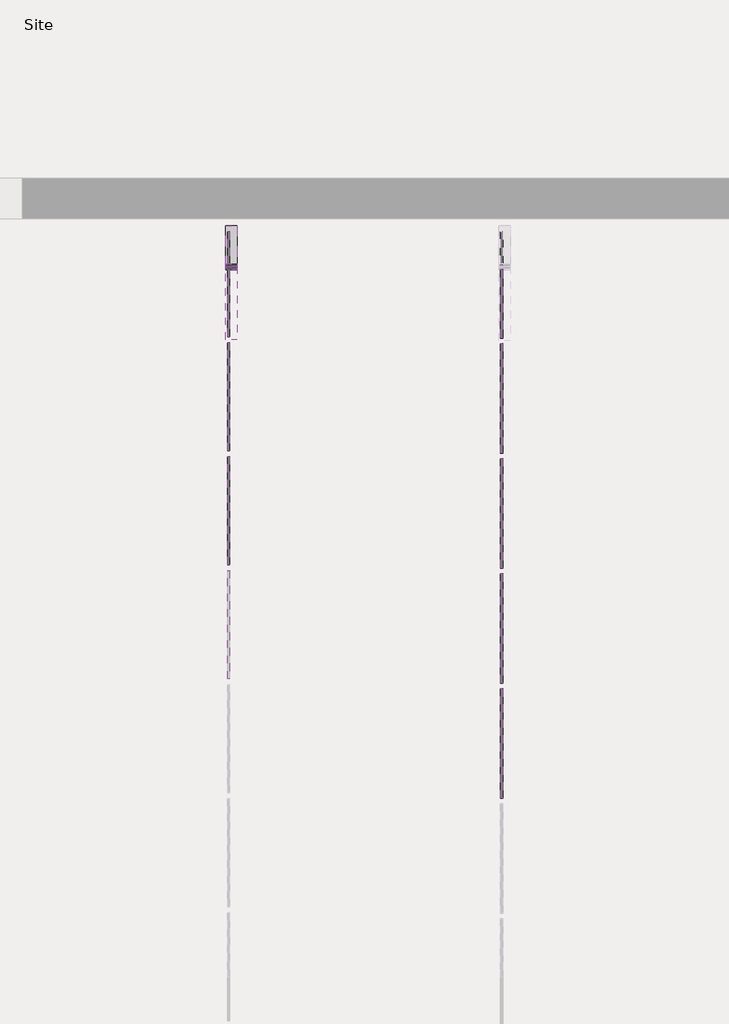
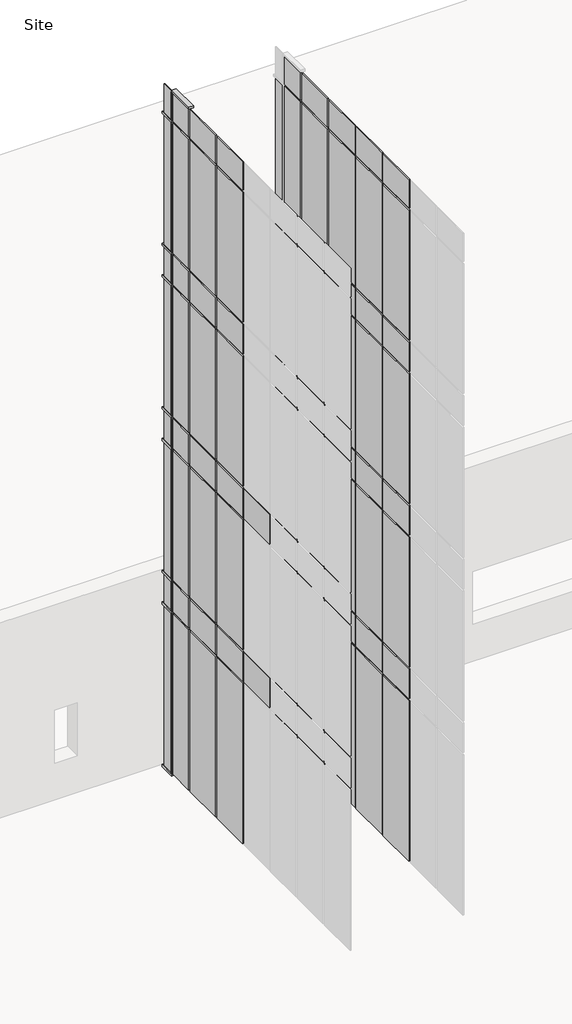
# One storey, part 3 of 4: 81 plates, 17 members.
"""IFC4 building model written with IfcOpenShell, lengths in millimetres."""

import ifcopenshell
import ifcopenshell.guid

model = None  # the IFC model being written
_history = None  # IfcOwnerHistory: only IFC2X3 demands one
_inside = {}  # id of a spatial element -> (the spatial element, [elements in it])
_under = {}  # id of a project, library or spatial element -> (it, [spatial elements below it])
_declared = {}  # id of a project -> (the project, [libraries it declares])
_typed = {}  # id of a type object -> (the type object, [elements of that type])
_made_of = {}  # id of a material, layer set ... -> (it, [elements and type objects made of it])


def new_model(schema):
    """Start an empty IFC model of exactly this schema.

    Asked for "IFC4X3", IfcOpenShell would pick the latest addendum, in which some entities
    have other attributes; the version numbers below select the first issue.
    IFC2X3 requires an IfcOwnerHistory on every rooted entity: one is made here for all.
    """
    global model, _history
    if schema == "IFC4X3":
        model = ifcopenshell.file(schema_version=(4, 3, 0, 0))
    else:
        model = ifcopenshell.file(schema=schema)
    _inside.clear()
    _under.clear()
    _declared.clear()
    _typed.clear()
    _made_of.clear()
    _history = None
    if model.schema == "IFC2X3":
        org = make("IfcOrganization", Name="unknown")
        user = make(
            "IfcPersonAndOrganization",
            ThePerson=make("IfcPerson", FamilyName="unknown"),
            TheOrganization=org,
        )
        app = make(
            "IfcApplication",
            ApplicationDeveloper=org,
            Version="unknown",
            ApplicationFullName="unknown",
            ApplicationIdentifier="unknown",
        )
        _history = make(
            "IfcOwnerHistory",
            OwningUser=user,
            OwningApplication=app,
            ChangeAction="ADDED",
            CreationDate=0,
        )
    return model


def make(cls, **values):
    """One entity of the class cls with the attributes given. An attribute that is None is left unset."""
    return model.create_entity(
        cls, **{name: value for name, value in values.items() if value is not None}
    )


def rooted(cls, **values):
    """An entity with a GlobalId (a new one), such as an element, a storey or a relation."""
    return make(cls, GlobalId=ifcopenshell.guid.new(), OwnerHistory=_history, **values)


def si_unit(unit_type, name, prefix=None):
    """IfcSIUnit, for example si_unit("LENGTHUNIT", "METRE", prefix="MILLI")."""
    return make("IfcSIUnit", UnitType=unit_type, Prefix=prefix, Name=name)


def assignment(units):
    """IfcUnitAssignment: the units of a project."""
    return None if units is None else make("IfcUnitAssignment", Units=units)


def point(xyz):
    """IfcCartesianPoint."""
    return None if xyz is None else make("IfcCartesianPoint", Coordinates=xyz)


def direction(xyz):
    """IfcDirection."""
    return None if xyz is None else make("IfcDirection", DirectionRatios=xyz)


def frame(location, z_axis=None, x_axis=None):
    """IfcAxis2Placement3D, a coordinate frame: its origin and axes. An axis left out is left unset."""
    return make(
        "IfcAxis2Placement3D",
        Location=point(location),
        Axis=direction(z_axis),
        RefDirection=direction(x_axis),
    )


def origin():
    """The frame at (0, 0, 0) with its axes left unset."""
    return frame((0.0, 0.0, 0.0))


def origin_with_axes():
    """The frame at (0, 0, 0) with the z axis (0, 0, 1) and the x axis (1, 0, 0) written out."""
    return frame((0.0, 0.0, 0.0), z_axis=(0.0, 0.0, 1.0), x_axis=(1.0, 0.0, 0.0))


def place(relative_to, where):
    """IfcLocalPlacement: puts the frame where relative to a parent placement (None: the world)."""
    return make(
        "IfcLocalPlacement", PlacementRelTo=relative_to, RelativePlacement=where
    )


def context(
    kind, dimensions, precision=None, world=None, true_north=None, identifier=None
):
    """IfcGeometricRepresentationContext, for example the 3D "Model" context."""
    return make(
        "IfcGeometricRepresentationContext",
        ContextIdentifier=identifier,
        ContextType=kind,
        CoordinateSpaceDimension=dimensions,
        Precision=precision,
        WorldCoordinateSystem=world,
        TrueNorth=true_north,
    )


def project(units=None, contexts=None):
    """IfcProject with its units and contexts."""
    return rooted(
        "IfcProject",
        Name="project",
        RepresentationContexts=contexts,
        UnitsInContext=assignment(units),
    )


def spatial(cls, under=None, at=None, **own):
    """A site, building, storey or space (cls), placed at a placement, below another one or the project."""
    s = rooted(cls, ObjectPlacement=at, **own)
    if under is not None:
        _under.setdefault(under.id(), (under, []))[1].append(s)
    return s


def polyline(points):
    """IfcPolyline through the points."""
    return make("IfcPolyline", Points=[point(p) for p in points])


def outline(outer, holes=None, kind="AREA"):
    """IfcArbitraryClosedProfileDef: a profile drawn as a closed curve; with holes, ...WithVoids."""
    if holes is None:
        return make("IfcArbitraryClosedProfileDef", ProfileType=kind, OuterCurve=outer)
    return make(
        "IfcArbitraryProfileDefWithVoids",
        ProfileType=kind,
        OuterCurve=outer,
        InnerCurves=holes,
    )


def extrude(swept, where, along, depth):
    """IfcExtrudedAreaSolid: the profile swept, set in the frame where, extruded along a direction by depth."""
    return make(
        "IfcExtrudedAreaSolid",
        SweptArea=swept,
        Position=where,
        ExtrudedDirection=direction(along),
        Depth=depth,
    )


def shape(context_of_items, identifier, shape_type, items):
    """IfcShapeRepresentation: the items that make up one representation, for example the "Body"."""
    return make(
        "IfcShapeRepresentation",
        ContextOfItems=context_of_items,
        RepresentationIdentifier=identifier,
        RepresentationType=shape_type,
        Items=items,
    )


def source(mapping_origin, context_of_items, identifier, shape_type, items):
    """IfcRepresentationMap: a shape defined once, which mapped items show again and again."""
    return make(
        "IfcRepresentationMap",
        MappingOrigin=mapping_origin,
        MappedRepresentation=shape(context_of_items, identifier, shape_type, items),
    )


def transform(
    local_origin,
    x_axis=None,
    y_axis=None,
    z_axis=None,
    scale=None,
    scale2=None,
    scale3=None,
    uniform=True,
):
    """IfcCartesianTransformationOperator3D, or its non-uniform kind. x_axis, y_axis, z_axis: its Axis1, 2, 3."""
    if uniform:
        return make(
            "IfcCartesianTransformationOperator3D",
            Axis1=direction(x_axis),
            Axis2=direction(y_axis),
            LocalOrigin=point(local_origin),
            Scale=scale,
            Axis3=direction(z_axis),
        )
    return make(
        "IfcCartesianTransformationOperator3DnonUniform",
        Axis1=direction(x_axis),
        Axis2=direction(y_axis),
        LocalOrigin=point(local_origin),
        Scale=scale,
        Axis3=direction(z_axis),
        Scale2=scale2,
        Scale3=scale3,
    )


def mapped(mapping_source, mapping_target):
    """IfcMappedItem: shows the shape of a source again, moved by a transform."""
    return make(
        "IfcMappedItem", MappingSource=mapping_source, MappingTarget=mapping_target
    )


def made_of(thing, what):
    """Note that an element or type object is made of a material, layer set ...; save() writes the relation."""
    if what is not None:
        _made_of.setdefault(what.id(), (what, []))[1].append(thing)
    return thing


def element(
    cls,
    number,
    at=None,
    inside=None,
    cuts=None,
    type_object=None,
    material=None,
    context=None,
    identifier="Body",
    shape_type=None,
    held_by="IfcProductDefinitionShape",
    body=None,
    shapes=None,
    **own,
):
    """One element of the class cls, such as IfcWall. Its Tag is "e" and its number.

    at: its placement. inside: the storey or other place that contains it. cuts: it is an
    opening in that element (IfcRelVoidsElement). A single representation is given by context,
    identifier, shape_type and body (its items); several are given by shapes. held_by: the class
    of the entity that holds the representations. save() writes the other relations.
    """
    e = rooted(cls, Tag="e%d" % number, ObjectPlacement=at, **own)
    if body is not None:
        shapes = [shape(context, identifier, shape_type, body)]
    if shapes is not None:
        e.Representation = make(held_by, Representations=shapes)
    if inside is not None:
        _inside.setdefault(inside.id(), (inside, []))[1].append(e)
    if cuts is not None:
        rooted(
            "IfcRelVoidsElement", RelatingBuildingElement=cuts, RelatedOpeningElement=e
        )
    if type_object is not None:
        _typed.setdefault(type_object.id(), (type_object, []))[1].append(e)
    return made_of(e, material)


def aggregate(whole, parts):
    """IfcRelAggregates: a whole, such as a stair, and the parts it consists of."""
    return rooted("IfcRelAggregates", RelatingObject=whole, RelatedObjects=parts)


def save(model, path):
    """Write the relations noted so far, then the file.

    IfcRelAggregates (storeys below a building ...), IfcRelContainedInSpatialStructure (elements
    in a storey), IfcRelDefinesByType, IfcRelAssociatesMaterial and IfcRelDeclares: one each for
    every whole, place, type object, material and project.
    """
    for whole, parts in _under.values():
        aggregate(whole, parts)
    for where, things in _inside.values():
        rooted(
            "IfcRelContainedInSpatialStructure",
            RelatedElements=things,
            RelatingStructure=where,
        )
    for kind, things in _typed.values():
        rooted("IfcRelDefinesByType", RelatedObjects=things, RelatingType=kind)
    for what, things in _made_of.values():
        rooted("IfcRelAssociatesMaterial", RelatedObjects=things, RelatingMaterial=what)
    for by, libraries in _declared.values():
        rooted("IfcRelDeclares", RelatingContext=by, RelatedDefinitions=libraries)
    model.write(path)


def member_5d07894b(model_context):
    return source(origin(), model_context, "Body", "SweptSolid", [
        extrude(outline(polyline([(31.75, 63.5), (31.75, -63.5), (-31.75, -63.5), (-31.75, 63.5), (31.75, 63.5)])), frame((0.0, 0.0, -4629.15), z_axis=(0.0, 0.0, 1.0), x_axis=(1.0, 0.0, 0.0)), (0.0, 0.0, 1.0), 4629.15),
    ])


def member_3ba9e939(model_context):
    return source(origin(), model_context, "Body", "SweptSolid", [
        extrude(outline(polyline([(31.75, 63.5), (31.75, -63.5), (-31.75, -63.5), (-31.75, 63.5), (31.75, 63.5)])), frame((0.0, 0.0, -3746.5), z_axis=(0.0, 0.0, 1.0), x_axis=(1.0, 0.0, 0.0)), (0.0, 0.0, 1.0), 3746.5),
    ])


def member_ad567e07(model_context):
    return source(origin(), model_context, "Body", "SweptSolid", [
        extrude(outline(polyline([(31.75, 63.5), (31.75, -63.5), (-31.75, -63.5), (-31.75, 63.5), (31.75, 63.5)])), frame((0.0, 0.0, -819.15), z_axis=(0.0, 0.0, 1.0), x_axis=(1.0, 0.0, 0.0)), (0.0, 0.0, 1.0), 819.15),
    ])


def member_7db1855a(model_context):
    return source(origin(), model_context, "Body", "SweptSolid", [
        extrude(outline(polyline([(31.75, 63.5), (31.75, -63.5), (-31.75, -63.5), (-31.75, 63.5), (31.75, 63.5)])), frame((0.0, 0.0, -850.9), z_axis=(0.0, 0.0, 1.0), x_axis=(1.0, 0.0, 0.0)), (0.0, 0.0, 1.0), 850.9),
    ])


def member_7227ddca(model_context):
    return source(origin(), model_context, "Body", "SweptSolid", [
        extrude(outline(polyline([(0.0, 63.5), (0.0, -63.5), (-63.5, -63.5), (-63.5, 63.5), (0.0, 63.5)])), frame((0.0, 0.0, -813.7989637), z_axis=(0.0, 0.0, 1.0), x_axis=(1.0, 0.0, 0.0)), (0.0, 0.0, 1.0), 813.7989637),
    ])


def member_ffd4c858(model_context):
    return source(origin(), model_context, "Body", "SweptSolid", [
        extrude(outline(polyline([(31.75, 63.5), (31.75, -63.5), (-31.75, -63.5), (-31.75, 63.5), (31.75, 63.5)])), frame((0.0, 0.0, -457.2), z_axis=(0.0, 0.0, 1.0), x_axis=(1.0, 0.0, 0.0)), (0.0, 0.0, 1.0), 457.2),
    ])


def member_15823cb3(model_context):
    return source(origin(), model_context, "Body", "SweptSolid", [
        extrude(outline(polyline([(0.0, 63.5), (0.0, -63.5), (-63.5, -63.5), (-63.5, 63.5), (0.0, 63.5)])), frame((0.0, 0.0, -457.2), z_axis=(0.0, 0.0, 1.0), x_axis=(1.0, 0.0, 0.0)), (0.0, 0.0, 1.0), 457.2),
    ])


def system_panel_glazed_26f8e022(model_context):
    return source(origin(), model_context, "Body", "SweptSolid", [
        extrude(outline(polyline([(603.7494819, 19.05), (-603.7494819, 19.05), (-603.7494819, 44.45), (603.7494819, 44.45), (603.7494819, 19.05)])), origin_with_axes(), (0.0, 0.0, 1.0), 4629.15),
    ])


def system_panel_glazed_31d10065(model_context):
    return source(origin(), model_context, "Body", "SweptSolid", [
        extrude(outline(polyline([(609.6, 19.05), (-609.6, 19.05), (-609.6, 44.45), (609.6, 44.45), (609.6, 19.05)])), origin_with_axes(), (0.0, 0.0, 1.0), 4629.15),
    ])


def system_panel_glazed_ccbaed92(model_context):
    return source(origin(), model_context, "Body", "SweptSolid", [
        extrude(outline(polyline([(375.1494819, 19.05), (-375.1494819, 19.05), (-375.1494819, 44.45), (375.1494819, 44.45), (375.1494819, 19.05)])), origin_with_axes(), (0.0, 0.0, 1.0), 4629.15),
    ])


def system_panel_glazed_7dca4fa5(model_context):
    return source(origin(), model_context, "Body", "SweptSolid", [
        extrude(outline(polyline([(381.0, 19.05), (-381.0, 19.05), (-381.0, 44.45), (381.0, 44.45), (381.0, 19.05)])), origin_with_axes(), (0.0, 0.0, 1.0), 4629.15),
    ])


def system_panel_glazed_2b3d2baa(model_context):
    return source(origin(), model_context, "Body", "SweptSolid", [
        extrude(outline(polyline([(609.6, 19.05), (-609.6, 19.05), (-609.6, 44.45), (609.6, 44.45), (609.6, 19.05)])), origin_with_axes(), (0.0, 0.0, 1.0), 3746.5),
    ])


def system_panel_glazed_7e289b92(model_context):
    return source(origin(), model_context, "Body", "SweptSolid", [
        extrude(outline(polyline([(381.0, 19.05), (-381.0, 19.05), (-381.0, 44.45), (381.0, 44.45), (381.0, 19.05)])), origin_with_axes(), (0.0, 0.0, 1.0), 3746.5),
    ])


def system_panel_glazed_8fe7ab7d(model_context):
    return source(origin(), model_context, "Body", "SweptSolid", [
        extrude(outline(polyline([(609.6, 19.05), (-609.6, 19.05), (-609.6, 44.45), (609.6, 44.45), (609.6, 19.05)])), origin_with_axes(), (0.0, 0.0, 1.0), 850.9),
    ])


def system_panel_glazed_4fa5cbd7(model_context):
    return source(origin(), model_context, "Body", "SweptSolid", [
        extrude(outline(polyline([(381.0, 19.05), (-381.0, 19.05), (-381.0, 44.45), (381.0, 44.45), (381.0, 19.05)])), origin_with_axes(), (0.0, 0.0, 1.0), 850.9),
    ])


def system_panel_glazed_636dec6d(model_context):
    return source(origin(), model_context, "Body", "SweptSolid", [
        extrude(outline(polyline([(609.6, 19.05), (-609.6, 19.05), (-609.6, 44.45), (609.6, 44.45), (609.6, 19.05)])), origin_with_axes(), (0.0, 0.0, 1.0), 819.15),
    ])


def system_panel_glazed_99ba6c15(model_context):
    return source(origin(), model_context, "Body", "SweptSolid", [
        extrude(outline(polyline([(381.0, 19.05), (-381.0, 19.05), (-381.0, 44.45), (381.0, 44.45), (381.0, 19.05)])), origin_with_axes(), (0.0, 0.0, 1.0), 819.15),
    ])


def system_panel_glazed_35bb093a(model_context):
    return source(origin(), model_context, "Body", "SweptSolid", [
        extrude(outline(polyline([(603.7494819, 19.05), (-603.7494819, 19.05), (-603.7494819, 44.45), (603.7494819, 44.45), (603.7494819, 19.05)])), origin_with_axes(), (0.0, 0.0, 1.0), 3746.5),
    ])


def system_panel_glazed_f4d1d7f7(model_context):
    return source(origin(), model_context, "Body", "SweptSolid", [
        extrude(outline(polyline([(375.1494819, 19.05), (-375.1494819, 19.05), (-375.1494819, 44.45), (375.1494819, 44.45), (375.1494819, 19.05)])), origin_with_axes(), (0.0, 0.0, 1.0), 3746.5),
    ])


def system_panel_glazed_6e853645(model_context):
    return source(origin(), model_context, "Body", "SweptSolid", [
        extrude(outline(polyline([(180.975, 19.05), (-180.975, 19.05), (-180.975, 44.45), (180.975, 44.45), (180.975, 19.05)])), origin_with_axes(), (0.0, 0.0, 1.0), 4629.15),
    ])


def system_panel_glazed_5cc7900c(model_context):
    return source(origin(), model_context, "Body", "SweptSolid", [
        extrude(outline(polyline([(180.975, 19.05), (-180.975, 19.05), (-180.975, 44.45), (180.975, 44.45), (180.975, 19.05)])), origin_with_axes(), (0.0, 0.0, 1.0), 850.9),
    ])


def system_panel_glazed_032e4dab(model_context):
    return source(origin(), model_context, "Body", "SweptSolid", [
        extrude(outline(polyline([(180.975, 19.05), (-180.975, 19.05), (-180.975, 44.45), (180.975, 44.45), (180.975, 19.05)])), origin_with_axes(), (0.0, 0.0, 1.0), 3746.5),
    ])


def system_panel_metal_panel_947f48db(model_context):
    return source(origin(), model_context, "Body", "SweptSolid", [
        extrude(outline(polyline([(603.7494819, 19.05), (-603.7494819, 19.05), (-603.7494819, 44.45), (603.7494819, 44.45), (603.7494819, 19.05)])), origin_with_axes(), (0.0, 0.0, 1.0), 819.15),
    ])


def system_panel_metal_panel_e2dbf0ce(model_context):
    return source(origin(), model_context, "Body", "SweptSolid", [
        extrude(outline(polyline([(375.1494819, 19.05), (-375.1494819, 19.05), (-375.1494819, 44.45), (375.1494819, 44.45), (375.1494819, 19.05)])), origin_with_axes(), (0.0, 0.0, 1.0), 819.15),
    ])


def system_panel_metal_panel_dcd9a435(model_context):
    return source(origin(), model_context, "Body", "SweptSolid", [
        extrude(outline(polyline([(603.7494819, 19.05), (-603.7494819, 19.05), (-603.7494819, 44.45), (603.7494819, 44.45), (603.7494819, 19.05)])), origin_with_axes(), (0.0, 0.0, 1.0), 850.9),
    ])


def system_panel_metal_panel_ab4ce9b6(model_context):
    return source(origin(), model_context, "Body", "SweptSolid", [
        extrude(outline(polyline([(375.1494819, 19.05), (-375.1494819, 19.05), (-375.1494819, 44.45), (375.1494819, 44.45), (375.1494819, 19.05)])), origin_with_axes(), (0.0, 0.0, 1.0), 850.9),
    ])


def system_panel_glazed_cc98a0ec(model_context):
    return source(origin(), model_context, "Body", "SweptSolid", [
        extrude(outline(polyline([(180.975, 19.05), (-180.975, 19.05), (-180.975, 44.45), (180.975, 44.45), (180.975, 19.05)])), origin_with_axes(), (0.0, 0.0, 1.0), 819.15),
    ])


model = new_model("IFC4")

# Units and contexts
model_context = context("Model", 3, world=origin())
ifc_project = project(units=[si_unit("LENGTHUNIT", "METRE", prefix="MILLI")], contexts=[model_context])

# Site, building, storey
site = spatial("IfcSite", under=ifc_project)
building = spatial("IfcBuilding", under=site)
storey = spatial("IfcBuildingStorey", under=building, Name="Site", Elevation=-152.4)

# Members
placement = place(None, origin())
member_shape = member_5d07894b(model_context)
element("IfcMember", 1, ObjectType="Rectangular Mullion1 : 2.5\" x 5\" rectangular", at=placement, inside=storey, context=model_context, shape_type="MappedRepresentation", body=[
    mapped(member_shape, transform((7830.8276119, 37629.311889, -88.9), x_axis=(0.0, 1.0, 0.0), y_axis=(1.0, 0.0, 0.0), z_axis=(0.0, 0.0, -1.0))),
])
member_2_shape = member_3ba9e939(model_context)
element("IfcMember", 2, ObjectType="Rectangular Mullion1 : 2.5\" x 5\" rectangular", at=placement, inside=storey, context=model_context, shape_type="MappedRepresentation", body=[
    mapped(member_2_shape, transform((7830.8276119, 37629.311889, 14966.95), x_axis=(0.0, 1.0, 0.0), y_axis=(1.0, 0.0, 0.0), z_axis=(0.0, 0.0, -1.0))),
])
element("IfcMember", 3, ObjectType="Rectangular Mullion1 : 2.5\" x 5\" rectangular", at=placement, inside=storey, context=model_context, shape_type="MappedRepresentation", body=[
    mapped(member_2_shape, transform((7830.8276119, 37629.311889, 10242.55), x_axis=(0.0, 1.0, 0.0), y_axis=(1.0, 0.0, 0.0), z_axis=(0.0, 0.0, -1.0))),
])
element("IfcMember", 4, ObjectType="Rectangular Mullion1 : 2.5\" x 5\" rectangular", at=placement, inside=storey, context=model_context, shape_type="MappedRepresentation", body=[
    mapped(member_2_shape, transform((7830.8276119, 37629.311889, 5518.15), x_axis=(0.0, 1.0, 0.0), y_axis=(1.0, 0.0, 0.0), z_axis=(0.0, 0.0, -1.0))),
])
member_3_shape = member_ad567e07(model_context)
element("IfcMember", 5, ObjectType="Rectangular Mullion1 : 2.5\" x 5\" rectangular", at=placement, inside=storey, context=model_context, shape_type="MappedRepresentation", body=[
    mapped(member_3_shape, transform((7830.8276119, 37629.311889, 18776.95), x_axis=(0.0, 1.0, 0.0), y_axis=(1.0, 0.0, 0.0), z_axis=(0.0, 0.0, -1.0))),
])
member_4_shape = member_7db1855a(model_context)
element("IfcMember", 6, ObjectType="Rectangular Mullion1 : 2.5\" x 5\" rectangular", at=placement, inside=storey, context=model_context, shape_type="MappedRepresentation", body=[
    mapped(member_4_shape, transform((7830.8276119, 37629.311889, 4603.75), x_axis=(0.0, 1.0, 0.0), y_axis=(1.0, 0.0, 0.0), z_axis=(0.0, 0.0, -1.0))),
])
element("IfcMember", 7, ObjectType="Rectangular Mullion1 : 2.5\" x 5\" rectangular", at=placement, inside=storey, context=model_context, shape_type="MappedRepresentation", body=[
    mapped(member_4_shape, transform((7830.8276119, 37629.311889, 9328.15), x_axis=(0.0, 1.0, 0.0), y_axis=(1.0, 0.0, 0.0), z_axis=(0.0, 0.0, -1.0))),
])
element("IfcMember", 8, ObjectType="Rectangular Mullion1 : 2.5\" x 5\" rectangular", at=placement, inside=storey, context=model_context, shape_type="MappedRepresentation", body=[
    mapped(member_4_shape, transform((7830.8276119, 37629.311889, 14052.55), x_axis=(0.0, 1.0, 0.0), y_axis=(1.0, 0.0, 0.0), z_axis=(0.0, 0.0, -1.0))),
])
member_5_shape = member_7227ddca(model_context)
element("IfcMember", 9, ObjectType="Rectangular Mullion1 : 2.5\" x 5\" rectangular", at=placement, inside=storey, context=model_context, shape_type="MappedRepresentation", body=[
    mapped(member_5_shape, transform((7830.8276119, 37629.311889, 19659.6), x_axis=(0.0, 0.0, 1.0), y_axis=(1.0, 0.0, 0.0), z_axis=(0.0, 1.0, 0.0))),
])
member_6_shape = member_ffd4c858(model_context)
element("IfcMember", 10, ObjectType="Rectangular Mullion1 : 2.5\" x 5\" rectangular", at=placement, inside=storey, context=model_context, shape_type="MappedRepresentation", body=[
    mapped(member_6_shape, transform((7830.8276119, 38086.511889, 5486.4), x_axis=(0.0, 0.0, 1.0), y_axis=(1.0, 0.0, 0.0), z_axis=(0.0, 1.0, 0.0))),
])
element("IfcMember", 11, ObjectType="Rectangular Mullion1 : 2.5\" x 5\" rectangular", at=placement, inside=storey, context=model_context, shape_type="MappedRepresentation", body=[
    mapped(member_6_shape, transform((7830.8276119, 38086.511889, 10210.8), x_axis=(0.0, 0.0, 1.0), y_axis=(1.0, 0.0, 0.0), z_axis=(0.0, 1.0, 0.0))),
])
element("IfcMember", 12, ObjectType="Rectangular Mullion1 : 2.5\" x 5\" rectangular", at=placement, inside=storey, context=model_context, shape_type="MappedRepresentation", body=[
    mapped(member_6_shape, transform((7830.8276119, 38086.511889, 14935.2), x_axis=(0.0, 0.0, 1.0), y_axis=(1.0, 0.0, 0.0), z_axis=(0.0, 1.0, 0.0))),
])
element("IfcMember", 13, ObjectType="Rectangular Mullion1 : 2.5\" x 5\" rectangular", at=placement, inside=storey, context=model_context, shape_type="MappedRepresentation", body=[
    mapped(member_6_shape, transform((7830.8276119, 38086.511889, 18745.2), x_axis=(0.0, 0.0, 1.0), y_axis=(1.0, 0.0, 0.0), z_axis=(0.0, 1.0, 0.0))),
])
element("IfcMember", 14, ObjectType="Rectangular Mullion1 : 2.5\" x 5\" rectangular", at=placement, inside=storey, context=model_context, shape_type="MappedRepresentation", body=[
    mapped(member_6_shape, transform((7830.8276119, 38086.511889, 14020.8), x_axis=(0.0, 0.0, 1.0), y_axis=(1.0, 0.0, 0.0), z_axis=(0.0, 1.0, 0.0))),
])
element("IfcMember", 15, ObjectType="Rectangular Mullion1 : 2.5\" x 5\" rectangular", at=placement, inside=storey, context=model_context, shape_type="MappedRepresentation", body=[
    mapped(member_6_shape, transform((7830.8276119, 38086.511889, 9296.4), x_axis=(0.0, 0.0, 1.0), y_axis=(1.0, 0.0, 0.0), z_axis=(0.0, 1.0, 0.0))),
])
element("IfcMember", 16, ObjectType="Rectangular Mullion1 : 2.5\" x 5\" rectangular", at=placement, inside=storey, context=model_context, shape_type="MappedRepresentation", body=[
    mapped(member_6_shape, transform((7830.8276119, 38086.511889, 4572.0), x_axis=(0.0, 0.0, 1.0), y_axis=(1.0, 0.0, 0.0), z_axis=(0.0, 1.0, 0.0))),
])
member_7_shape = member_15823cb3(model_context)
element("IfcMember", 17, ObjectType="Rectangular Mullion1 : 2.5\" x 5\" rectangular", at=placement, inside=storey, context=model_context, shape_type="MappedRepresentation", body=[
    mapped(member_7_shape, transform((7830.8276119, 37629.311889, -152.4), x_axis=(0.0, 0.0, -1.0), y_axis=(1.0, 0.0, 0.0), z_axis=(0.0, -1.0, 0.0))),
])

# Plates
system_panel_glazed_shape = system_panel_glazed_26f8e022(model_context)
element("IfcPlate", 18, ObjectType="System Panel : Glazed", at=placement, inside=storey, context=model_context, shape_type="MappedRepresentation", body=[
    mapped(system_panel_glazed_shape, transform((7830.8276119, 36180.0134434, -88.9), x_axis=(0.0, 1.0, 0.0), y_axis=(-1.0, 0.0, 0.0), z_axis=(0.0, 0.0, 1.0))),
])
element("IfcPlate", 19, ObjectType="System Panel : Glazed", at=placement, inside=storey, context=model_context, shape_type="MappedRepresentation", body=[
    mapped(system_panel_glazed_shape, transform((7830.8276119, 34909.0144797, -88.9), x_axis=(0.0, 1.0, 0.0), y_axis=(-1.0, 0.0, 0.0), z_axis=(0.0, 0.0, 1.0))),
])
system_panel_glazed_2_shape = system_panel_glazed_31d10065(model_context)
element("IfcPlate", 20, ObjectType="System Panel : Glazed", at=placement, inside=storey, context=model_context, shape_type="MappedRepresentation", body=[
    mapped(system_panel_glazed_2_shape, transform((10878.8276119, 33597.061889, -88.9), x_axis=(0.0, 1.0, 0.0), y_axis=(-1.0, 0.0, 0.0), z_axis=(0.0, 0.0, 1.0))),
])
element("IfcPlate", 21, ObjectType="System Panel : Glazed", at=placement, inside=storey, context=model_context, shape_type="MappedRepresentation", body=[
    mapped(system_panel_glazed_2_shape, transform((10878.8276119, 36162.461889, -88.9), x_axis=(0.0, 1.0, 0.0), y_axis=(-1.0, 0.0, 0.0), z_axis=(0.0, 0.0, 1.0))),
])
element("IfcPlate", 22, ObjectType="System Panel : Glazed", at=placement, inside=storey, context=model_context, shape_type="MappedRepresentation", body=[
    mapped(system_panel_glazed_2_shape, transform((10878.8276119, 32314.361889, -88.9), x_axis=(0.0, 1.0, 0.0), y_axis=(-1.0, 0.0, 0.0), z_axis=(0.0, 0.0, 1.0))),
])
element("IfcPlate", 23, ObjectType="System Panel : Glazed", at=placement, inside=storey, context=model_context, shape_type="MappedRepresentation", body=[
    mapped(system_panel_glazed_2_shape, transform((10878.8276119, 34879.761889, -88.9), x_axis=(0.0, 1.0, 0.0), y_axis=(-1.0, 0.0, 0.0), z_axis=(0.0, 0.0, 1.0))),
])
system_panel_glazed_3_shape = system_panel_glazed_ccbaed92(model_context)
element("IfcPlate", 24, ObjectType="System Panel : Glazed", at=placement, inside=storey, context=model_context, shape_type="MappedRepresentation", body=[
    mapped(system_panel_glazed_3_shape, transform((7830.8276119, 37222.4124071, -88.9), x_axis=(0.0, 1.0, 0.0), y_axis=(-1.0, 0.0, 0.0), z_axis=(0.0, 0.0, 1.0))),
])
system_panel_glazed_4_shape = system_panel_glazed_7dca4fa5(model_context)
element("IfcPlate", 25, ObjectType="System Panel : Glazed", at=placement, inside=storey, context=model_context, shape_type="MappedRepresentation", body=[
    mapped(system_panel_glazed_4_shape, transform((10878.8276119, 37216.561889, -88.9), x_axis=(0.0, 1.0, 0.0), y_axis=(-1.0, 0.0, 0.0), z_axis=(0.0, 0.0, 1.0))),
])
system_panel_glazed_5_shape = system_panel_glazed_2b3d2baa(model_context)
element("IfcPlate", 26, ObjectType="System Panel : Glazed", at=placement, inside=storey, context=model_context, shape_type="MappedRepresentation", body=[
    mapped(system_panel_glazed_5_shape, transform((10878.8276119, 32314.361889, 14966.95), x_axis=(0.0, 1.0, 0.0), y_axis=(-1.0, 0.0, 0.0), z_axis=(0.0, 0.0, 1.0))),
])
element("IfcPlate", 27, ObjectType="System Panel : Glazed", at=placement, inside=storey, context=model_context, shape_type="MappedRepresentation", body=[
    mapped(system_panel_glazed_5_shape, transform((10878.8276119, 33597.061889, 14966.95), x_axis=(0.0, 1.0, 0.0), y_axis=(-1.0, 0.0, 0.0), z_axis=(0.0, 0.0, 1.0))),
])
element("IfcPlate", 28, ObjectType="System Panel : Glazed", at=placement, inside=storey, context=model_context, shape_type="MappedRepresentation", body=[
    mapped(system_panel_glazed_5_shape, transform((10878.8276119, 34879.761889, 14966.95), x_axis=(0.0, 1.0, 0.0), y_axis=(-1.0, 0.0, 0.0), z_axis=(0.0, 0.0, 1.0))),
])
element("IfcPlate", 29, ObjectType="System Panel : Glazed", at=placement, inside=storey, context=model_context, shape_type="MappedRepresentation", body=[
    mapped(system_panel_glazed_5_shape, transform((10878.8276119, 36162.461889, 14966.95), x_axis=(0.0, 1.0, 0.0), y_axis=(-1.0, 0.0, 0.0), z_axis=(0.0, 0.0, 1.0))),
])
element("IfcPlate", 30, ObjectType="System Panel : Glazed", at=placement, inside=storey, context=model_context, shape_type="MappedRepresentation", body=[
    mapped(system_panel_glazed_5_shape, transform((10878.8276119, 32314.361889, 10242.55), x_axis=(0.0, 1.0, 0.0), y_axis=(-1.0, 0.0, 0.0), z_axis=(0.0, 0.0, 1.0))),
])
element("IfcPlate", 31, ObjectType="System Panel : Glazed", at=placement, inside=storey, context=model_context, shape_type="MappedRepresentation", body=[
    mapped(system_panel_glazed_5_shape, transform((10878.8276119, 33597.061889, 10242.55), x_axis=(0.0, 1.0, 0.0), y_axis=(-1.0, 0.0, 0.0), z_axis=(0.0, 0.0, 1.0))),
])
element("IfcPlate", 32, ObjectType="System Panel : Glazed", at=placement, inside=storey, context=model_context, shape_type="MappedRepresentation", body=[
    mapped(system_panel_glazed_5_shape, transform((10878.8276119, 34879.761889, 10242.55), x_axis=(0.0, 1.0, 0.0), y_axis=(-1.0, 0.0, 0.0), z_axis=(0.0, 0.0, 1.0))),
])
element("IfcPlate", 33, ObjectType="System Panel : Glazed", at=placement, inside=storey, context=model_context, shape_type="MappedRepresentation", body=[
    mapped(system_panel_glazed_5_shape, transform((10878.8276119, 36162.461889, 10242.55), x_axis=(0.0, 1.0, 0.0), y_axis=(-1.0, 0.0, 0.0), z_axis=(0.0, 0.0, 1.0))),
])
element("IfcPlate", 34, ObjectType="System Panel : Glazed", at=placement, inside=storey, context=model_context, shape_type="MappedRepresentation", body=[
    mapped(system_panel_glazed_5_shape, transform((10878.8276119, 32314.361889, 5518.15), x_axis=(0.0, 1.0, 0.0), y_axis=(-1.0, 0.0, 0.0), z_axis=(0.0, 0.0, 1.0))),
])
element("IfcPlate", 35, ObjectType="System Panel : Glazed", at=placement, inside=storey, context=model_context, shape_type="MappedRepresentation", body=[
    mapped(system_panel_glazed_5_shape, transform((10878.8276119, 33597.061889, 5518.15), x_axis=(0.0, 1.0, 0.0), y_axis=(-1.0, 0.0, 0.0), z_axis=(0.0, 0.0, 1.0))),
])
element("IfcPlate", 36, ObjectType="System Panel : Glazed", at=placement, inside=storey, context=model_context, shape_type="MappedRepresentation", body=[
    mapped(system_panel_glazed_5_shape, transform((10878.8276119, 34879.761889, 5518.15), x_axis=(0.0, 1.0, 0.0), y_axis=(-1.0, 0.0, 0.0), z_axis=(0.0, 0.0, 1.0))),
])
element("IfcPlate", 37, ObjectType="System Panel : Glazed", at=placement, inside=storey, context=model_context, shape_type="MappedRepresentation", body=[
    mapped(system_panel_glazed_5_shape, transform((10878.8276119, 36162.461889, 5518.15), x_axis=(0.0, 1.0, 0.0), y_axis=(-1.0, 0.0, 0.0), z_axis=(0.0, 0.0, 1.0))),
])
system_panel_glazed_6_shape = system_panel_glazed_7e289b92(model_context)
element("IfcPlate", 38, ObjectType="System Panel : Glazed", at=placement, inside=storey, context=model_context, shape_type="MappedRepresentation", body=[
    mapped(system_panel_glazed_6_shape, transform((10878.8276119, 37216.561889, 14966.95), x_axis=(0.0, 1.0, 0.0), y_axis=(-1.0, 0.0, 0.0), z_axis=(0.0, 0.0, 1.0))),
])
element("IfcPlate", 39, ObjectType="System Panel : Glazed", at=placement, inside=storey, context=model_context, shape_type="MappedRepresentation", body=[
    mapped(system_panel_glazed_6_shape, transform((10878.8276119, 37216.561889, 10242.55), x_axis=(0.0, 1.0, 0.0), y_axis=(-1.0, 0.0, 0.0), z_axis=(0.0, 0.0, 1.0))),
])
element("IfcPlate", 40, ObjectType="System Panel : Glazed", at=placement, inside=storey, context=model_context, shape_type="MappedRepresentation", body=[
    mapped(system_panel_glazed_6_shape, transform((10878.8276119, 37216.561889, 5518.15), x_axis=(0.0, 1.0, 0.0), y_axis=(-1.0, 0.0, 0.0), z_axis=(0.0, 0.0, 1.0))),
])
system_panel_glazed_7_shape = system_panel_glazed_8fe7ab7d(model_context)
element("IfcPlate", 41, ObjectType="System Panel : Glazed", at=placement, inside=storey, context=model_context, shape_type="MappedRepresentation", body=[
    mapped(system_panel_glazed_7_shape, transform((10878.8276119, 32314.361889, 9328.15), x_axis=(0.0, 1.0, 0.0), y_axis=(-1.0, 0.0, 0.0), z_axis=(0.0, 0.0, 1.0))),
])
element("IfcPlate", 42, ObjectType="System Panel : Glazed", at=placement, inside=storey, context=model_context, shape_type="MappedRepresentation", body=[
    mapped(system_panel_glazed_7_shape, transform((10878.8276119, 33597.061889, 9328.15), x_axis=(0.0, 1.0, 0.0), y_axis=(-1.0, 0.0, 0.0), z_axis=(0.0, 0.0, 1.0))),
])
element("IfcPlate", 43, ObjectType="System Panel : Glazed", at=placement, inside=storey, context=model_context, shape_type="MappedRepresentation", body=[
    mapped(system_panel_glazed_7_shape, transform((10878.8276119, 34879.761889, 9328.15), x_axis=(0.0, 1.0, 0.0), y_axis=(-1.0, 0.0, 0.0), z_axis=(0.0, 0.0, 1.0))),
])
element("IfcPlate", 44, ObjectType="System Panel : Glazed", at=placement, inside=storey, context=model_context, shape_type="MappedRepresentation", body=[
    mapped(system_panel_glazed_7_shape, transform((10878.8276119, 36162.461889, 9328.15), x_axis=(0.0, 1.0, 0.0), y_axis=(-1.0, 0.0, 0.0), z_axis=(0.0, 0.0, 1.0))),
])
element("IfcPlate", 45, ObjectType="System Panel : Glazed", at=placement, inside=storey, context=model_context, shape_type="MappedRepresentation", body=[
    mapped(system_panel_glazed_7_shape, transform((10878.8276119, 32314.361889, 4603.75), x_axis=(0.0, 1.0, 0.0), y_axis=(-1.0, 0.0, 0.0), z_axis=(0.0, 0.0, 1.0))),
])
element("IfcPlate", 46, ObjectType="System Panel : Glazed", at=placement, inside=storey, context=model_context, shape_type="MappedRepresentation", body=[
    mapped(system_panel_glazed_7_shape, transform((10878.8276119, 33597.061889, 4603.75), x_axis=(0.0, 1.0, 0.0), y_axis=(-1.0, 0.0, 0.0), z_axis=(0.0, 0.0, 1.0))),
])
element("IfcPlate", 47, ObjectType="System Panel : Glazed", at=placement, inside=storey, context=model_context, shape_type="MappedRepresentation", body=[
    mapped(system_panel_glazed_7_shape, transform((10878.8276119, 34879.761889, 4603.75), x_axis=(0.0, 1.0, 0.0), y_axis=(-1.0, 0.0, 0.0), z_axis=(0.0, 0.0, 1.0))),
])
element("IfcPlate", 48, ObjectType="System Panel : Glazed", at=placement, inside=storey, context=model_context, shape_type="MappedRepresentation", body=[
    mapped(system_panel_glazed_7_shape, transform((10878.8276119, 36162.461889, 4603.75), x_axis=(0.0, 1.0, 0.0), y_axis=(-1.0, 0.0, 0.0), z_axis=(0.0, 0.0, 1.0))),
])
element("IfcPlate", 49, ObjectType="System Panel : Glazed", at=placement, inside=storey, context=model_context, shape_type="MappedRepresentation", body=[
    mapped(system_panel_glazed_7_shape, transform((10878.8276119, 32314.361889, 14052.55), x_axis=(0.0, 1.0, 0.0), y_axis=(-1.0, 0.0, 0.0), z_axis=(0.0, 0.0, 1.0))),
])
element("IfcPlate", 50, ObjectType="System Panel : Glazed", at=placement, inside=storey, context=model_context, shape_type="MappedRepresentation", body=[
    mapped(system_panel_glazed_7_shape, transform((10878.8276119, 33597.061889, 14052.55), x_axis=(0.0, 1.0, 0.0), y_axis=(-1.0, 0.0, 0.0), z_axis=(0.0, 0.0, 1.0))),
])
element("IfcPlate", 51, ObjectType="System Panel : Glazed", at=placement, inside=storey, context=model_context, shape_type="MappedRepresentation", body=[
    mapped(system_panel_glazed_7_shape, transform((10878.8276119, 34879.761889, 14052.55), x_axis=(0.0, 1.0, 0.0), y_axis=(-1.0, 0.0, 0.0), z_axis=(0.0, 0.0, 1.0))),
])
element("IfcPlate", 52, ObjectType="System Panel : Glazed", at=placement, inside=storey, context=model_context, shape_type="MappedRepresentation", body=[
    mapped(system_panel_glazed_7_shape, transform((10878.8276119, 36162.461889, 14052.55), x_axis=(0.0, 1.0, 0.0), y_axis=(-1.0, 0.0, 0.0), z_axis=(0.0, 0.0, 1.0))),
])
system_panel_glazed_8_shape = system_panel_glazed_4fa5cbd7(model_context)
element("IfcPlate", 53, ObjectType="System Panel : Glazed", at=placement, inside=storey, context=model_context, shape_type="MappedRepresentation", body=[
    mapped(system_panel_glazed_8_shape, transform((10878.8276119, 37216.561889, 9328.15), x_axis=(0.0, 1.0, 0.0), y_axis=(-1.0, 0.0, 0.0), z_axis=(0.0, 0.0, 1.0))),
])
element("IfcPlate", 54, ObjectType="System Panel : Glazed", at=placement, inside=storey, context=model_context, shape_type="MappedRepresentation", body=[
    mapped(system_panel_glazed_8_shape, transform((10878.8276119, 37216.561889, 4603.75), x_axis=(0.0, 1.0, 0.0), y_axis=(-1.0, 0.0, 0.0), z_axis=(0.0, 0.0, 1.0))),
])
element("IfcPlate", 55, ObjectType="System Panel : Glazed", at=placement, inside=storey, context=model_context, shape_type="MappedRepresentation", body=[
    mapped(system_panel_glazed_8_shape, transform((10878.8276119, 37216.561889, 14052.55), x_axis=(0.0, 1.0, 0.0), y_axis=(-1.0, 0.0, 0.0), z_axis=(0.0, 0.0, 1.0))),
])
system_panel_glazed_9_shape = system_panel_glazed_636dec6d(model_context)
element("IfcPlate", 56, ObjectType="System Panel : Glazed", at=placement, inside=storey, context=model_context, shape_type="MappedRepresentation", body=[
    mapped(system_panel_glazed_9_shape, transform((10878.8276119, 32314.361889, 18776.95), x_axis=(0.0, 1.0, 0.0), y_axis=(-1.0, 0.0, 0.0), z_axis=(0.0, 0.0, 1.0))),
])
element("IfcPlate", 57, ObjectType="System Panel : Glazed", at=placement, inside=storey, context=model_context, shape_type="MappedRepresentation", body=[
    mapped(system_panel_glazed_9_shape, transform((10878.8276119, 33597.061889, 18776.95), x_axis=(0.0, 1.0, 0.0), y_axis=(-1.0, 0.0, 0.0), z_axis=(0.0, 0.0, 1.0))),
])
element("IfcPlate", 58, ObjectType="System Panel : Glazed", at=placement, inside=storey, context=model_context, shape_type="MappedRepresentation", body=[
    mapped(system_panel_glazed_9_shape, transform((10878.8276119, 34879.761889, 18776.95), x_axis=(0.0, 1.0, 0.0), y_axis=(-1.0, 0.0, 0.0), z_axis=(0.0, 0.0, 1.0))),
])
element("IfcPlate", 59, ObjectType="System Panel : Glazed", at=placement, inside=storey, context=model_context, shape_type="MappedRepresentation", body=[
    mapped(system_panel_glazed_9_shape, transform((10878.8276119, 36162.461889, 18776.95), x_axis=(0.0, 1.0, 0.0), y_axis=(-1.0, 0.0, 0.0), z_axis=(0.0, 0.0, 1.0))),
])
system_panel_glazed_10_shape = system_panel_glazed_99ba6c15(model_context)
element("IfcPlate", 60, ObjectType="System Panel : Glazed", at=placement, inside=storey, context=model_context, shape_type="MappedRepresentation", body=[
    mapped(system_panel_glazed_10_shape, transform((10878.8276119, 37216.561889, 18776.95), x_axis=(0.0, 1.0, 0.0), y_axis=(-1.0, 0.0, 0.0), z_axis=(0.0, 0.0, 1.0))),
])
system_panel_glazed_11_shape = system_panel_glazed_35bb093a(model_context)
element("IfcPlate", 61, ObjectType="System Panel : Glazed", at=placement, inside=storey, context=model_context, shape_type="MappedRepresentation", body=[
    mapped(system_panel_glazed_11_shape, transform((7830.8276119, 34909.0144797, 5518.15), x_axis=(0.0, 1.0, 0.0), y_axis=(-1.0, 0.0, 0.0), z_axis=(0.0, 0.0, 1.0))),
])
element("IfcPlate", 62, ObjectType="System Panel : Glazed", at=placement, inside=storey, context=model_context, shape_type="MappedRepresentation", body=[
    mapped(system_panel_glazed_11_shape, transform((7830.8276119, 36180.0134434, 5518.15), x_axis=(0.0, 1.0, 0.0), y_axis=(-1.0, 0.0, 0.0), z_axis=(0.0, 0.0, 1.0))),
])
element("IfcPlate", 63, ObjectType="System Panel : Glazed", at=placement, inside=storey, context=model_context, shape_type="MappedRepresentation", body=[
    mapped(system_panel_glazed_11_shape, transform((7830.8276119, 34909.0144797, 10242.55), x_axis=(0.0, 1.0, 0.0), y_axis=(-1.0, 0.0, 0.0), z_axis=(0.0, 0.0, 1.0))),
])
element("IfcPlate", 64, ObjectType="System Panel : Glazed", at=placement, inside=storey, context=model_context, shape_type="MappedRepresentation", body=[
    mapped(system_panel_glazed_11_shape, transform((7830.8276119, 36180.0134434, 10242.55), x_axis=(0.0, 1.0, 0.0), y_axis=(-1.0, 0.0, 0.0), z_axis=(0.0, 0.0, 1.0))),
])
element("IfcPlate", 65, ObjectType="System Panel : Glazed", at=placement, inside=storey, context=model_context, shape_type="MappedRepresentation", body=[
    mapped(system_panel_glazed_11_shape, transform((7830.8276119, 34909.0144797, 14966.95), x_axis=(0.0, 1.0, 0.0), y_axis=(-1.0, 0.0, 0.0), z_axis=(0.0, 0.0, 1.0))),
])
element("IfcPlate", 66, ObjectType="System Panel : Glazed", at=placement, inside=storey, context=model_context, shape_type="MappedRepresentation", body=[
    mapped(system_panel_glazed_11_shape, transform((7830.8276119, 36180.0134434, 14966.95), x_axis=(0.0, 1.0, 0.0), y_axis=(-1.0, 0.0, 0.0), z_axis=(0.0, 0.0, 1.0))),
])
system_panel_glazed_12_shape = system_panel_glazed_f4d1d7f7(model_context)
element("IfcPlate", 67, ObjectType="System Panel : Glazed", at=placement, inside=storey, context=model_context, shape_type="MappedRepresentation", body=[
    mapped(system_panel_glazed_12_shape, transform((7830.8276119, 37222.4124071, 5518.15), x_axis=(0.0, 1.0, 0.0), y_axis=(-1.0, 0.0, 0.0), z_axis=(0.0, 0.0, 1.0))),
])
element("IfcPlate", 68, ObjectType="System Panel : Glazed", at=placement, inside=storey, context=model_context, shape_type="MappedRepresentation", body=[
    mapped(system_panel_glazed_12_shape, transform((7830.8276119, 37222.4124071, 10242.55), x_axis=(0.0, 1.0, 0.0), y_axis=(-1.0, 0.0, 0.0), z_axis=(0.0, 0.0, 1.0))),
])
element("IfcPlate", 69, ObjectType="System Panel : Glazed", at=placement, inside=storey, context=model_context, shape_type="MappedRepresentation", body=[
    mapped(system_panel_glazed_12_shape, transform((7830.8276119, 37222.4124071, 14966.95), x_axis=(0.0, 1.0, 0.0), y_axis=(-1.0, 0.0, 0.0), z_axis=(0.0, 0.0, 1.0))),
])
system_panel_glazed_13_shape = system_panel_glazed_6e853645(model_context)
element("IfcPlate", 70, ObjectType="System Panel : Glazed", at=placement, inside=storey, context=model_context, shape_type="MappedRepresentation", body=[
    mapped(system_panel_glazed_13_shape, transform((10878.8276119, 37842.036889, -88.9), x_axis=(0.0, 1.0, 0.0), y_axis=(-1.0, 0.0, 0.0), z_axis=(0.0, 0.0, 1.0))),
])
system_panel_glazed_14_shape = system_panel_glazed_5cc7900c(model_context)
element("IfcPlate", 71, ObjectType="System Panel : Glazed", at=placement, inside=storey, context=model_context, shape_type="MappedRepresentation", body=[
    mapped(system_panel_glazed_14_shape, transform((10878.8276119, 37842.036889, 4603.75), x_axis=(0.0, 1.0, 0.0), y_axis=(-1.0, 0.0, 0.0), z_axis=(0.0, 0.0, 1.0))),
])
element("IfcPlate", 72, ObjectType="System Panel : Glazed", at=placement, inside=storey, context=model_context, shape_type="MappedRepresentation", body=[
    mapped(system_panel_glazed_14_shape, transform((10878.8276119, 37842.036889, 9328.15), x_axis=(0.0, 1.0, 0.0), y_axis=(-1.0, 0.0, 0.0), z_axis=(0.0, 0.0, 1.0))),
])
element("IfcPlate", 73, ObjectType="System Panel : Glazed", at=placement, inside=storey, context=model_context, shape_type="MappedRepresentation", body=[
    mapped(system_panel_glazed_14_shape, transform((10878.8276119, 37842.036889, 14052.55), x_axis=(0.0, 1.0, 0.0), y_axis=(-1.0, 0.0, 0.0), z_axis=(0.0, 0.0, 1.0))),
])
system_panel_glazed_15_shape = system_panel_glazed_032e4dab(model_context)
element("IfcPlate", 74, ObjectType="System Panel : Glazed", at=placement, inside=storey, context=model_context, shape_type="MappedRepresentation", body=[
    mapped(system_panel_glazed_15_shape, transform((10878.8276119, 37842.036889, 5518.15), x_axis=(0.0, 1.0, 0.0), y_axis=(-1.0, 0.0, 0.0), z_axis=(0.0, 0.0, 1.0))),
])
element("IfcPlate", 75, ObjectType="System Panel : Glazed", at=placement, inside=storey, context=model_context, shape_type="MappedRepresentation", body=[
    mapped(system_panel_glazed_15_shape, transform((10878.8276119, 37842.036889, 10242.55), x_axis=(0.0, 1.0, 0.0), y_axis=(-1.0, 0.0, 0.0), z_axis=(0.0, 0.0, 1.0))),
])
element("IfcPlate", 76, ObjectType="System Panel : Glazed", at=placement, inside=storey, context=model_context, shape_type="MappedRepresentation", body=[
    mapped(system_panel_glazed_15_shape, transform((10878.8276119, 37842.036889, 14966.95), x_axis=(0.0, 1.0, 0.0), y_axis=(-1.0, 0.0, 0.0), z_axis=(0.0, 0.0, 1.0))),
])
system_panel_metal_panel_shape = system_panel_metal_panel_947f48db(model_context)
element("IfcPlate", 77, ObjectType="System Panel : Metal Panel", at=placement, inside=storey, context=model_context, shape_type="MappedRepresentation", body=[
    mapped(system_panel_metal_panel_shape, transform((7830.8276119, 34909.0144797, 18776.95), x_axis=(0.0, 1.0, 0.0), y_axis=(-1.0, 0.0, 0.0), z_axis=(0.0, 0.0, 1.0))),
])
element("IfcPlate", 78, ObjectType="System Panel : Metal Panel", at=placement, inside=storey, context=model_context, shape_type="MappedRepresentation", body=[
    mapped(system_panel_metal_panel_shape, transform((7830.8276119, 36180.0134434, 18776.95), x_axis=(0.0, 1.0, 0.0), y_axis=(-1.0, 0.0, 0.0), z_axis=(0.0, 0.0, 1.0))),
])
system_panel_metal_panel_2_shape = system_panel_metal_panel_e2dbf0ce(model_context)
element("IfcPlate", 79, ObjectType="System Panel : Metal Panel", at=placement, inside=storey, context=model_context, shape_type="MappedRepresentation", body=[
    mapped(system_panel_metal_panel_2_shape, transform((7830.8276119, 37222.4124071, 18776.95), x_axis=(0.0, 1.0, 0.0), y_axis=(-1.0, 0.0, 0.0), z_axis=(0.0, 0.0, 1.0))),
])
system_panel_metal_panel_3_shape = system_panel_metal_panel_dcd9a435(model_context)
element("IfcPlate", 80, ObjectType="System Panel : Metal Panel", at=placement, inside=storey, context=model_context, shape_type="MappedRepresentation", body=[
    mapped(system_panel_metal_panel_3_shape, transform((7830.8276119, 34909.0144797, 14052.55), x_axis=(0.0, 1.0, 0.0), y_axis=(-1.0, 0.0, 0.0), z_axis=(0.0, 0.0, 1.0))),
])
element("IfcPlate", 81, ObjectType="System Panel : Metal Panel", at=placement, inside=storey, context=model_context, shape_type="MappedRepresentation", body=[
    mapped(system_panel_metal_panel_3_shape, transform((7830.8276119, 36180.0134434, 14052.55), x_axis=(0.0, 1.0, 0.0), y_axis=(-1.0, 0.0, 0.0), z_axis=(0.0, 0.0, 1.0))),
])
element("IfcPlate", 82, ObjectType="System Panel : Metal Panel", at=placement, inside=storey, context=model_context, shape_type="MappedRepresentation", body=[
    mapped(system_panel_metal_panel_3_shape, transform((7830.8276119, 33638.015516, 9328.15), x_axis=(0.0, 1.0, 0.0), y_axis=(-1.0, 0.0, 0.0), z_axis=(0.0, 0.0, 1.0))),
])
element("IfcPlate", 83, ObjectType="System Panel : Metal Panel", at=placement, inside=storey, context=model_context, shape_type="MappedRepresentation", body=[
    mapped(system_panel_metal_panel_3_shape, transform((7830.8276119, 34909.0144797, 9328.15), x_axis=(0.0, 1.0, 0.0), y_axis=(-1.0, 0.0, 0.0), z_axis=(0.0, 0.0, 1.0))),
])
element("IfcPlate", 84, ObjectType="System Panel : Metal Panel", at=placement, inside=storey, context=model_context, shape_type="MappedRepresentation", body=[
    mapped(system_panel_metal_panel_3_shape, transform((7830.8276119, 36180.0134434, 9328.15), x_axis=(0.0, 1.0, 0.0), y_axis=(-1.0, 0.0, 0.0), z_axis=(0.0, 0.0, 1.0))),
])
element("IfcPlate", 85, ObjectType="System Panel : Metal Panel", at=placement, inside=storey, context=model_context, shape_type="MappedRepresentation", body=[
    mapped(system_panel_metal_panel_3_shape, transform((7830.8276119, 33638.015516, 4603.75), x_axis=(0.0, 1.0, 0.0), y_axis=(-1.0, 0.0, 0.0), z_axis=(0.0, 0.0, 1.0))),
])
element("IfcPlate", 86, ObjectType="System Panel : Metal Panel", at=placement, inside=storey, context=model_context, shape_type="MappedRepresentation", body=[
    mapped(system_panel_metal_panel_3_shape, transform((7830.8276119, 34909.0144797, 4603.75), x_axis=(0.0, 1.0, 0.0), y_axis=(-1.0, 0.0, 0.0), z_axis=(0.0, 0.0, 1.0))),
])
element("IfcPlate", 87, ObjectType="System Panel : Metal Panel", at=placement, inside=storey, context=model_context, shape_type="MappedRepresentation", body=[
    mapped(system_panel_metal_panel_3_shape, transform((7830.8276119, 36180.0134434, 4603.75), x_axis=(0.0, 1.0, 0.0), y_axis=(-1.0, 0.0, 0.0), z_axis=(0.0, 0.0, 1.0))),
])
system_panel_metal_panel_4_shape = system_panel_metal_panel_ab4ce9b6(model_context)
element("IfcPlate", 88, ObjectType="System Panel : Metal Panel", at=placement, inside=storey, context=model_context, shape_type="MappedRepresentation", body=[
    mapped(system_panel_metal_panel_4_shape, transform((7830.8276119, 37222.4124071, 14052.55), x_axis=(0.0, 1.0, 0.0), y_axis=(-1.0, 0.0, 0.0), z_axis=(0.0, 0.0, 1.0))),
])
element("IfcPlate", 89, ObjectType="System Panel : Metal Panel", at=placement, inside=storey, context=model_context, shape_type="MappedRepresentation", body=[
    mapped(system_panel_metal_panel_4_shape, transform((7830.8276119, 37222.4124071, 9328.15), x_axis=(0.0, 1.0, 0.0), y_axis=(-1.0, 0.0, 0.0), z_axis=(0.0, 0.0, 1.0))),
])
element("IfcPlate", 90, ObjectType="System Panel : Metal Panel", at=placement, inside=storey, context=model_context, shape_type="MappedRepresentation", body=[
    mapped(system_panel_metal_panel_4_shape, transform((7830.8276119, 37222.4124071, 4603.75), x_axis=(0.0, 1.0, 0.0), y_axis=(-1.0, 0.0, 0.0), z_axis=(0.0, 0.0, 1.0))),
])
element("IfcPlate", 91, ObjectType="System Panel : Metal Panel", at=placement, inside=storey, context=model_context, shape_type="MappedRepresentation", body=[
    mapped(system_panel_glazed_13_shape, transform((7830.8276119, 37842.036889, -88.9), x_axis=(0.0, 1.0, 0.0), y_axis=(-1.0, 0.0, 0.0), z_axis=(0.0, 0.0, 1.0))),
])
element("IfcPlate", 92, ObjectType="System Panel : Metal Panel", at=placement, inside=storey, context=model_context, shape_type="MappedRepresentation", body=[
    mapped(system_panel_glazed_14_shape, transform((7830.8276119, 37842.036889, 4603.75), x_axis=(0.0, 1.0, 0.0), y_axis=(-1.0, 0.0, 0.0), z_axis=(0.0, 0.0, 1.0))),
])
element("IfcPlate", 93, ObjectType="System Panel : Metal Panel", at=placement, inside=storey, context=model_context, shape_type="MappedRepresentation", body=[
    mapped(system_panel_glazed_14_shape, transform((7830.8276119, 37842.036889, 9328.15), x_axis=(0.0, 1.0, 0.0), y_axis=(-1.0, 0.0, 0.0), z_axis=(0.0, 0.0, 1.0))),
])
element("IfcPlate", 94, ObjectType="System Panel : Metal Panel", at=placement, inside=storey, context=model_context, shape_type="MappedRepresentation", body=[
    mapped(system_panel_glazed_14_shape, transform((7830.8276119, 37842.036889, 14052.55), x_axis=(0.0, 1.0, 0.0), y_axis=(-1.0, 0.0, 0.0), z_axis=(0.0, 0.0, 1.0))),
])
element("IfcPlate", 95, ObjectType="System Panel : Metal Panel", at=placement, inside=storey, context=model_context, shape_type="MappedRepresentation", body=[
    mapped(system_panel_glazed_15_shape, transform((7830.8276119, 37842.036889, 5518.15), x_axis=(0.0, 1.0, 0.0), y_axis=(-1.0, 0.0, 0.0), z_axis=(0.0, 0.0, 1.0))),
])
element("IfcPlate", 96, ObjectType="System Panel : Metal Panel", at=placement, inside=storey, context=model_context, shape_type="MappedRepresentation", body=[
    mapped(system_panel_glazed_15_shape, transform((7830.8276119, 37842.036889, 10242.55), x_axis=(0.0, 1.0, 0.0), y_axis=(-1.0, 0.0, 0.0), z_axis=(0.0, 0.0, 1.0))),
])
element("IfcPlate", 97, ObjectType="System Panel : Metal Panel", at=placement, inside=storey, context=model_context, shape_type="MappedRepresentation", body=[
    mapped(system_panel_glazed_15_shape, transform((7830.8276119, 37842.036889, 14966.95), x_axis=(0.0, 1.0, 0.0), y_axis=(-1.0, 0.0, 0.0), z_axis=(0.0, 0.0, 1.0))),
])
system_panel_glazed_16_shape = system_panel_glazed_cc98a0ec(model_context)
element("IfcPlate", 98, ObjectType="System Panel : Metal Panel", at=placement, inside=storey, context=model_context, shape_type="MappedRepresentation", body=[
    mapped(system_panel_glazed_16_shape, transform((7830.8276119, 37842.036889, 18776.95), x_axis=(0.0, 1.0, 0.0), y_axis=(-1.0, 0.0, 0.0), z_axis=(0.0, 0.0, 1.0))),
])

save(model, "model.ifc")
